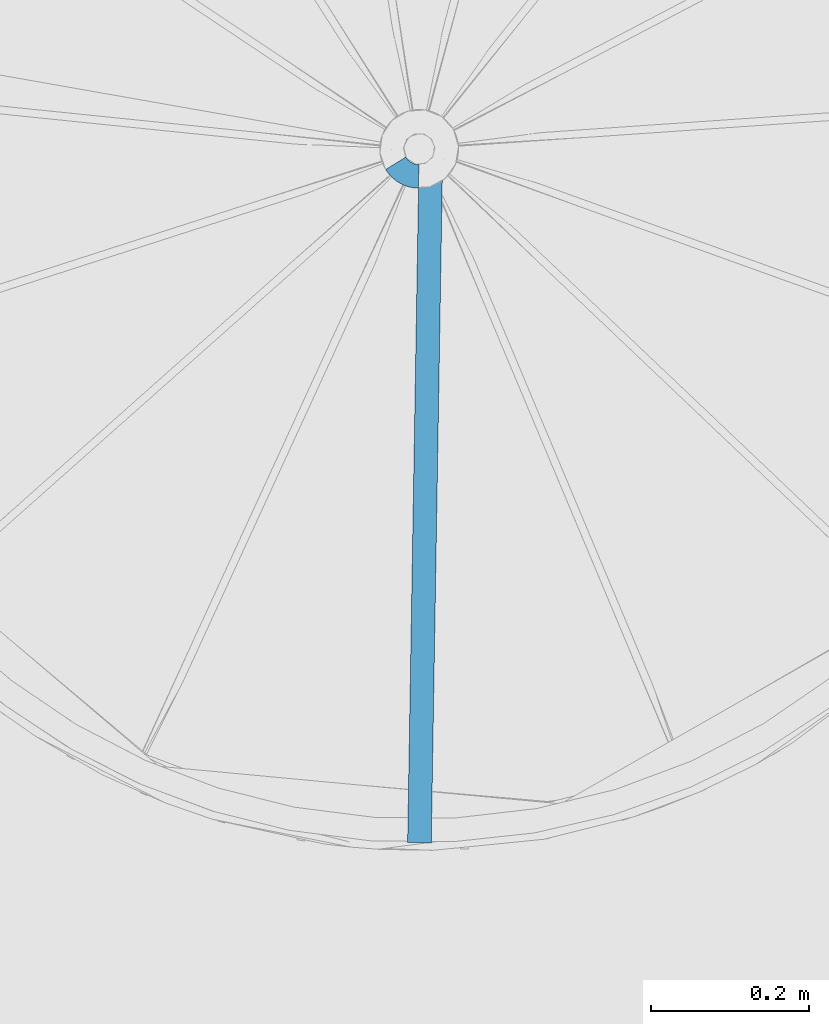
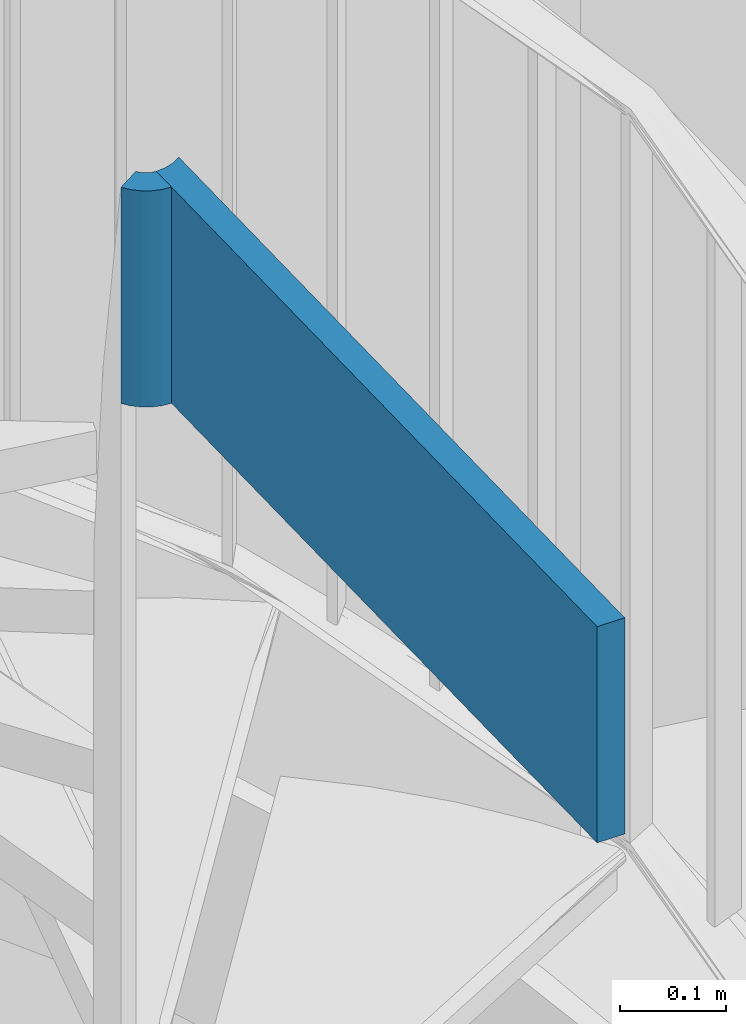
# One storey, part 1 of 2: 2 members, 1 element without a shape of its own.
"""IFC2X3 building model written with IfcOpenShell, lengths in millimetres."""

import ifcopenshell
import ifcopenshell.guid

model = None  # the IFC model being written
_history = None  # IfcOwnerHistory: only IFC2X3 demands one
_inside = {}  # id of a spatial element -> (the spatial element, [elements in it])
_under = {}  # id of a project, library or spatial element -> (it, [spatial elements below it])
_declared = {}  # id of a project -> (the project, [libraries it declares])
_typed = {}  # id of a type object -> (the type object, [elements of that type])
_made_of = {}  # id of a material, layer set ... -> (it, [elements and type objects made of it])


def new_model(schema):
    """Start an empty IFC model of exactly this schema.

    Asked for "IFC4X3", IfcOpenShell would pick the latest addendum, in which some entities
    have other attributes; the version numbers below select the first issue.
    IFC2X3 requires an IfcOwnerHistory on every rooted entity: one is made here for all.
    """
    global model, _history
    if schema == "IFC4X3":
        model = ifcopenshell.file(schema_version=(4, 3, 0, 0))
    else:
        model = ifcopenshell.file(schema=schema)
    _inside.clear()
    _under.clear()
    _declared.clear()
    _typed.clear()
    _made_of.clear()
    _history = None
    if model.schema == "IFC2X3":
        org = make("IfcOrganization", Name="unknown")
        user = make(
            "IfcPersonAndOrganization",
            ThePerson=make("IfcPerson", FamilyName="unknown"),
            TheOrganization=org,
        )
        app = make(
            "IfcApplication",
            ApplicationDeveloper=org,
            Version="unknown",
            ApplicationFullName="unknown",
            ApplicationIdentifier="unknown",
        )
        _history = make(
            "IfcOwnerHistory",
            OwningUser=user,
            OwningApplication=app,
            ChangeAction="ADDED",
            CreationDate=0,
        )
    return model


def make(cls, **values):
    """One entity of the class cls with the attributes given. An attribute that is None is left unset."""
    return model.create_entity(
        cls, **{name: value for name, value in values.items() if value is not None}
    )


def entity(cls, *values):
    """Any entity or typed value of the class cls, its attributes in the order of the schema. None: left unset."""
    e = model.create_entity(cls)
    for i, value in enumerate(values):
        if value is not None:
            e[i] = value
    return e


def rooted(cls, **values):
    """An entity with a GlobalId (a new one), such as an element, a storey or a relation."""
    return make(cls, GlobalId=ifcopenshell.guid.new(), OwnerHistory=_history, **values)


def si_unit(unit_type, name, prefix=None):
    """IfcSIUnit, for example si_unit("LENGTHUNIT", "METRE", prefix="MILLI")."""
    return make("IfcSIUnit", UnitType=unit_type, Prefix=prefix, Name=name)


def converted_unit(unit_type, name, factor, base, dimensions=None, offset=None):
    """IfcConversionBasedUnit, such as the inch: factor (a typed value) times the base unit."""
    return make(
        "IfcConversionBasedUnit"
        if offset is None
        else "IfcConversionBasedUnitWithOffset",
        ConversionOffset=offset,
        Dimensions=None
        if dimensions is None
        else entity("IfcDimensionalExponents", *dimensions),
        UnitType=unit_type,
        Name=name,
        ConversionFactor=make(
            "IfcMeasureWithUnit", ValueComponent=factor, UnitComponent=base
        ),
    )


def derived_unit(unit_type, elements):
    """IfcDerivedUnit: a product of units, each with its exponent."""
    return make(
        "IfcDerivedUnit",
        Elements=[
            make("IfcDerivedUnitElement", Unit=unit, Exponent=power)
            for unit, power in elements
        ],
        UnitType=unit_type,
    )


def assignment(units):
    """IfcUnitAssignment: the units of a project."""
    return None if units is None else make("IfcUnitAssignment", Units=units)


def point(xyz):
    """IfcCartesianPoint."""
    return None if xyz is None else make("IfcCartesianPoint", Coordinates=xyz)


def direction(xyz):
    """IfcDirection."""
    return None if xyz is None else make("IfcDirection", DirectionRatios=xyz)


def frame(location, z_axis=None, x_axis=None):
    """IfcAxis2Placement3D, a coordinate frame: its origin and axes. An axis left out is left unset."""
    return make(
        "IfcAxis2Placement3D",
        Location=point(location),
        Axis=direction(z_axis),
        RefDirection=direction(x_axis),
    )


def frame_2d(location, x_axis=None):
    """IfcAxis2Placement2D, a coordinate frame in the plane: its origin and x axis."""
    return make(
        "IfcAxis2Placement2D", Location=point(location), RefDirection=direction(x_axis)
    )


def origin():
    """The frame at (0, 0, 0) with its axes left unset."""
    return frame((0.0, 0.0, 0.0))


def place(relative_to, where):
    """IfcLocalPlacement: puts the frame where relative to a parent placement (None: the world)."""
    return make(
        "IfcLocalPlacement", PlacementRelTo=relative_to, RelativePlacement=where
    )


def context(
    kind, dimensions, precision=None, world=None, true_north=None, identifier=None
):
    """IfcGeometricRepresentationContext, for example the 3D "Model" context."""
    return make(
        "IfcGeometricRepresentationContext",
        ContextIdentifier=identifier,
        ContextType=kind,
        CoordinateSpaceDimension=dimensions,
        Precision=precision,
        WorldCoordinateSystem=world,
        TrueNorth=true_north,
    )


def subcontext(parent, identifier, kind, view, scale=None):
    """IfcGeometricRepresentationSubContext, for example "Body" below "Model"."""
    return make(
        "IfcGeometricRepresentationSubContext",
        ContextIdentifier=identifier,
        ContextType=kind,
        ParentContext=parent,
        TargetScale=scale,
        TargetView=view,
    )


def project(units=None, contexts=None):
    """IfcProject with its units and contexts."""
    return rooted(
        "IfcProject",
        Name="project",
        RepresentationContexts=contexts,
        UnitsInContext=assignment(units),
    )


def spatial(cls, under=None, at=None, **own):
    """A site, building, storey or space (cls), placed at a placement, below another one or the project."""
    s = rooted(cls, ObjectPlacement=at, **own)
    if under is not None:
        _under.setdefault(under.id(), (under, []))[1].append(s)
    return s


def polyline(points):
    """IfcPolyline through the points."""
    return make("IfcPolyline", Points=[point(p) for p in points])


def circle_curve(where, radius):
    """IfcCircle in the frame where."""
    return make("IfcCircle", Position=where, Radius=radius)


def parameter(value):
    """IfcParameterValue: where a trimmed curve begins or ends, as a parameter of its basis curve."""
    return model.create_entity("IfcParameterValue", value)


def trimmed(basis, trim1, trim2, sense, master):
    """IfcTrimmedCurve: the piece of a basis curve between two trims."""
    return make(
        "IfcTrimmedCurve",
        BasisCurve=basis,
        Trim1=trim1,
        Trim2=trim2,
        SenseAgreement=sense,
        MasterRepresentation=master,
    )


def segment(curve, same_sense, transition):
    """IfcCompositeCurveSegment."""
    return make(
        "IfcCompositeCurveSegment",
        Transition=transition,
        SameSense=same_sense,
        ParentCurve=curve,
    )


def composite_curve(segments, self_intersect=None):
    """IfcCompositeCurve: segments joined end to end."""
    return make("IfcCompositeCurve", Segments=segments, SelfIntersect=self_intersect)


def outline(outer, holes=None, kind="AREA"):
    """IfcArbitraryClosedProfileDef: a profile drawn as a closed curve; with holes, ...WithVoids."""
    if holes is None:
        return make("IfcArbitraryClosedProfileDef", ProfileType=kind, OuterCurve=outer)
    return make(
        "IfcArbitraryProfileDefWithVoids",
        ProfileType=kind,
        OuterCurve=outer,
        InnerCurves=holes,
    )


def extrude(swept, where, along, depth):
    """IfcExtrudedAreaSolid: the profile swept, set in the frame where, extruded along a direction by depth."""
    return make(
        "IfcExtrudedAreaSolid",
        SweptArea=swept,
        Position=where,
        ExtrudedDirection=direction(along),
        Depth=depth,
    )


def shape(context_of_items, identifier, shape_type, items):
    """IfcShapeRepresentation: the items that make up one representation, for example the "Body"."""
    return make(
        "IfcShapeRepresentation",
        ContextOfItems=context_of_items,
        RepresentationIdentifier=identifier,
        RepresentationType=shape_type,
        Items=items,
    )


def material(Name=None, Category=None):
    """IfcMaterial."""
    return make("IfcMaterial", Name=Name, Category=Category)


def made_of(thing, what):
    """Note that an element or type object is made of a material, layer set ...; save() writes the relation."""
    if what is not None:
        _made_of.setdefault(what.id(), (what, []))[1].append(thing)
    return thing


def type_object(cls, material=None, **own):
    """A type object (cls), such as IfcWallType, which elements share."""
    return made_of(rooted(cls, **own), material)


def element(
    cls,
    number,
    at=None,
    inside=None,
    cuts=None,
    type_object=None,
    material=None,
    context=None,
    identifier="Body",
    shape_type=None,
    held_by="IfcProductDefinitionShape",
    body=None,
    shapes=None,
    **own,
):
    """One element of the class cls, such as IfcWall. Its Tag is "e" and its number.

    at: its placement. inside: the storey or other place that contains it. cuts: it is an
    opening in that element (IfcRelVoidsElement). A single representation is given by context,
    identifier, shape_type and body (its items); several are given by shapes. held_by: the class
    of the entity that holds the representations. save() writes the other relations.
    """
    e = rooted(cls, Tag="e%d" % number, ObjectPlacement=at, **own)
    if body is not None:
        shapes = [shape(context, identifier, shape_type, body)]
    if shapes is not None:
        e.Representation = make(held_by, Representations=shapes)
    if inside is not None:
        _inside.setdefault(inside.id(), (inside, []))[1].append(e)
    if cuts is not None:
        rooted(
            "IfcRelVoidsElement", RelatingBuildingElement=cuts, RelatedOpeningElement=e
        )
    if type_object is not None:
        _typed.setdefault(type_object.id(), (type_object, []))[1].append(e)
    return made_of(e, material)


def aggregate(whole, parts):
    """IfcRelAggregates: a whole, such as a stair, and the parts it consists of."""
    return rooted("IfcRelAggregates", RelatingObject=whole, RelatedObjects=parts)


def save(model, path):
    """Write the relations noted so far, then the file.

    IfcRelAggregates (storeys below a building ...), IfcRelContainedInSpatialStructure (elements
    in a storey), IfcRelDefinesByType, IfcRelAssociatesMaterial and IfcRelDeclares: one each for
    every whole, place, type object, material and project.
    """
    for whole, parts in _under.values():
        aggregate(whole, parts)
    for where, things in _inside.values():
        rooted(
            "IfcRelContainedInSpatialStructure",
            RelatedElements=things,
            RelatingStructure=where,
        )
    for kind, things in _typed.values():
        rooted("IfcRelDefinesByType", RelatedObjects=things, RelatingType=kind)
    for what, things in _made_of.values():
        rooted("IfcRelAssociatesMaterial", RelatedObjects=things, RelatingMaterial=what)
    for by, libraries in _declared.values():
        rooted("IfcRelDeclares", RelatingContext=by, RelatedDefinitions=libraries)
    model.write(path)


model = new_model("IFC2X3")

# Units and contexts
model_context = context("Model", 3, precision=0.01, world=origin(), true_north=direction((6.12303176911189e-17, 1.0)))
body_context = subcontext(model_context, "Body", "Model", "MODEL_VIEW")
ifc_project = project(units=[si_unit("LENGTHUNIT", "METRE", prefix="MILLI"), si_unit("AREAUNIT", "SQUARE_METRE"), si_unit("VOLUMEUNIT", "CUBIC_METRE"), converted_unit("PLANEANGLEUNIT", "DEGREE", entity("IfcRatioMeasure", 0.0174532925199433), si_unit("PLANEANGLEUNIT", "RADIAN"), dimensions=[0, 0, 0, 0, 0, 0, 0]), si_unit("MASSUNIT", "GRAM", prefix="KILO"), derived_unit("MASSDENSITYUNIT", [(si_unit("MASSUNIT", "GRAM", prefix="KILO"), 1), (si_unit("LENGTHUNIT", "METRE"), -3)]), derived_unit("MOMENTOFINERTIAUNIT", [(si_unit("LENGTHUNIT", "METRE"), 4)]), si_unit("TIMEUNIT", "SECOND"), si_unit("FREQUENCYUNIT", "HERTZ"), si_unit("THERMODYNAMICTEMPERATUREUNIT", "DEGREE_CELSIUS"), derived_unit("THERMALTRANSMITTANCEUNIT", [(si_unit("MASSUNIT", "GRAM", prefix="KILO"), 1), (si_unit("THERMODYNAMICTEMPERATUREUNIT", "KELVIN"), -1), (si_unit("TIMEUNIT", "SECOND"), -3)]), derived_unit("VOLUMETRICFLOWRATEUNIT", [(si_unit("LENGTHUNIT", "METRE"), 3), (si_unit("TIMEUNIT", "SECOND"), -1)]), si_unit("ELECTRICCURRENTUNIT", "AMPERE"), si_unit("ELECTRICVOLTAGEUNIT", "VOLT"), si_unit("POWERUNIT", "WATT"), si_unit("FORCEUNIT", "NEWTON", prefix="KILO"), si_unit("ILLUMINANCEUNIT", "LUX"), si_unit("LUMINOUSFLUXUNIT", "LUMEN"), si_unit("LUMINOUSINTENSITYUNIT", "CANDELA"), derived_unit("USERDEFINED", [(si_unit("MASSUNIT", "GRAM", prefix="KILO"), -1), (si_unit("LENGTHUNIT", "METRE"), -2), (si_unit("TIMEUNIT", "SECOND"), 3), (si_unit("LUMINOUSFLUXUNIT", "LUMEN"), 1)]), derived_unit("LINEARVELOCITYUNIT", [(si_unit("LENGTHUNIT", "METRE"), 1), (si_unit("TIMEUNIT", "SECOND"), -1)]), si_unit("PRESSUREUNIT", "PASCAL"), derived_unit("USERDEFINED", [(si_unit("LENGTHUNIT", "METRE"), -2), (si_unit("MASSUNIT", "GRAM", prefix="KILO"), 1), (si_unit("TIMEUNIT", "SECOND"), -2)]), derived_unit("LINEARFORCEUNIT", [(si_unit("MASSUNIT", "GRAM", prefix="KILO"), 1), (si_unit("LENGTHUNIT", "METRE"), 1), (si_unit("TIMEUNIT", "SECOND"), -2), (si_unit("LENGTHUNIT", "METRE"), -1)]), derived_unit("PLANARFORCEUNIT", [(si_unit("MASSUNIT", "GRAM", prefix="KILO"), 1), (si_unit("LENGTHUNIT", "METRE"), 1), (si_unit("TIMEUNIT", "SECOND"), -2), (si_unit("LENGTHUNIT", "METRE"), -2)])], contexts=[model_context])

# Site, building, storey
site_placement = place(None, origin())
site = spatial("IfcSite", under=ifc_project, at=site_placement, Name="<Kadaster Gemeente>;<Kadaster nummer>;<Kadaster sectie>", CompositionType="ELEMENT")
building_placement = place(site_placement, origin())
building = spatial("IfcBuilding", under=site, at=building_placement, Name="JRCZ Middelburg", CompositionType="ELEMENT")
storey_placement = place(building_placement, frame((0.0, 0.0, -4000.0)))
storey = spatial("IfcBuildingStorey", under=building, at=storey_placement, Name="-1 kelder", CompositionType="ELEMENT", Elevation=-4000.0)

# Stair, members
stair_placement = place(storey_placement, origin())
stair = element("IfcStair", 1, at=stair_placement, inside=storey, Name="Assembled Stair:Stair", ObjectType="Assembled Stair:Vluchttrap", ShapeType="SPIRAL_STAIR")
ifc_material = material(Name="<Unnamed>")
member_type = type_object("IfcMemberType", Name="Stringer:Stringer - vluchttrap", PredefinedType="STRINGER")
member_1_placement = place(stair_placement, origin())
member_1 = element("IfcMember", 2, at=member_1_placement, type_object=member_type, material=ifc_material, Name="Assembled Stair:Stair:2174468 Stringer 3", ObjectType="Stringer:Stringer - vluchttrap", context=body_context, shape_type="SweptSolid", body=[
    extrude(outline(composite_curve([segment(polyline([(-6.8979971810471, -14.7623727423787), (23.1020028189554, -14.7623727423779)]), True, "CONTINUOUS"), segment(trimmed(circle_curve(frame_2d((-26.8979971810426, -14.762372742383), x_axis=(0.537028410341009, 0.843564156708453)), 49.9999999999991), [parameter(302.481578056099)], [parameter(1.47068848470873e-11)], True, "PARAMETER"), True, "CONTINUOUS"), segment(polyline([(-0.0465766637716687, 27.4158350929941), (-16.1574289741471, 2.10891039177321)]), True, "CONTINUOUS"), segment(trimmed(circle_curve(frame_2d((-26.8979971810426, -14.762372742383), x_axis=(0.537028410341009, 0.843564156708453)), 19.9999999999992), [parameter(302.481578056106)], [parameter(4.94130975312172e-11)], True, "PARAMETER"), False, "CONTINUOUS")], self_intersect=False)), frame((22664.0843863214, 17867.0140344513, 3850.0), z_axis=(0.0, 0.0, 1.0), x_axis=(-0.852395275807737, -0.522897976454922, 0.0)), (0.0, 0.0, 1.0), 250.0),
])
member_2_placement = place(stair_placement, origin())
member_2 = element("IfcMember", 3, at=member_2_placement, type_object=member_type, material=ifc_material, Name="Assembled Stair:Stair:2174468 Stringer 4", ObjectType="Stringer:Stringer - vluchttrap", context=body_context, shape_type="SweptSolid", body=[
    extrude(outline(composite_curve([segment(polyline([(-432.499999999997, -15.0), (437.500000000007, -15.0)]), True, "CONTINUOUS"), segment(trimmed(circle_curve(frame_2d((477.499999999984, 15.0), x_axis=(0.0, 1.0)), 50.0), [parameter(90.0000000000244)], [parameter(126.869897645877)], True, "PARAMETER"), False, "CONTINUOUS"), segment(polyline([(427.499999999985, 15.0), (-432.499999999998, 15.0)]), True, "CONTINUOUS"), segment(polyline([(-432.499999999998, 15.0), (-432.499999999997, -15.0)]), True, "CONTINUOUS")], self_intersect=False)), frame((22686.8343507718, 17445.974508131, 3850.0), z_axis=(0.0, 0.0, 1.0), x_axis=(0.0166624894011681, 0.999861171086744, 0.0)), (0.0, 0.0, 1.0), 250.0),
])
aggregate(stair, [member_1, member_2])

save(model, "model.ifc")
